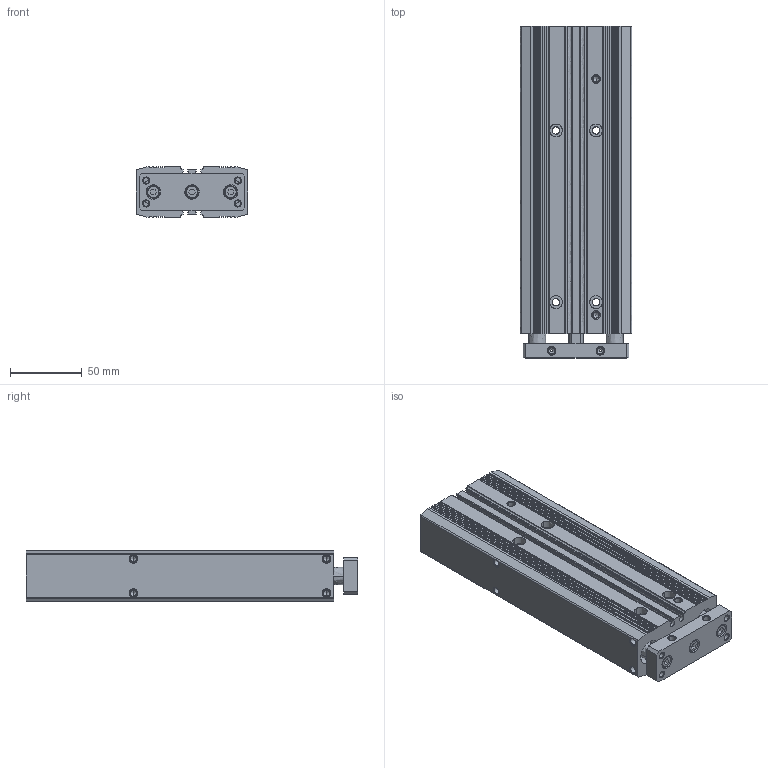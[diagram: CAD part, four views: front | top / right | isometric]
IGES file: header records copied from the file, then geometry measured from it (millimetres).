
Start section:  PTC IGES file: 060501_gcyl-20x150.igs
Global section: file name: 060501_gcyl-20x150.igs; native system: Pro/ENGINEER by Parametric Technology Corporation; preprocessor: 2004090; author: KAIHATSU01; organization: Unknown; date: 061017.092438; units: millimetre
Bounding box: 78 x 232 x 35 mm (x, y, z)
Volume: 541601.9 mm3; surface area: 111190.3 mm2
Topology: 1 solids, 1 shells, 497 faces, 1270 edges, 776 vertices
Faces by surface type: bspline 497
